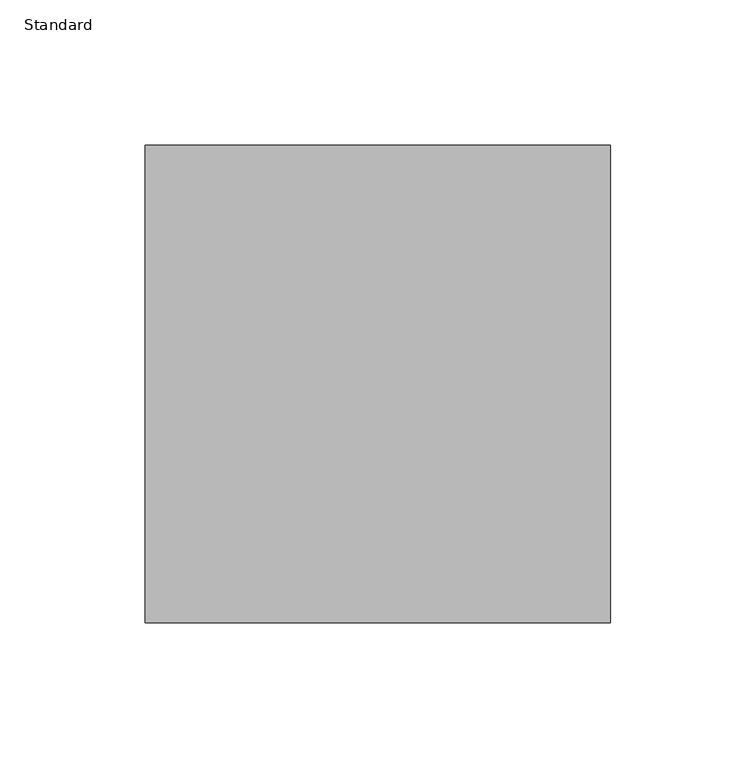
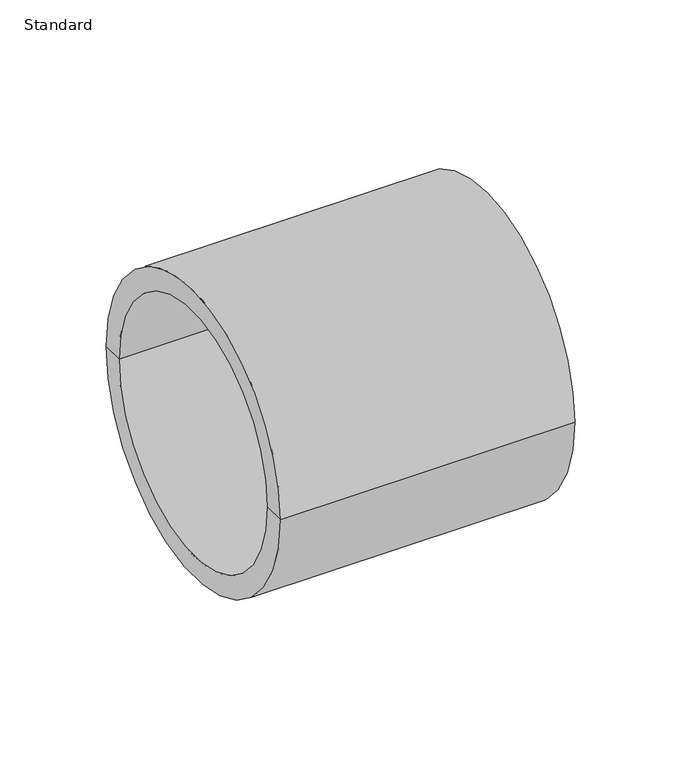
"""IFC4 building model written with IfcOpenShell, lengths in millimetres: pipe fitting geometry, Durapipe_PipeFitting_PVC_Socket : Standard."""

from ifc_helpers import new_model, si_unit, frame, origin, place, context, project, spatial, polyline, circle_curve, source, transform, mapped, element, save
from ifc_brep_helpers import plane_surface, cylinder_surface, revolved_surface, advanced_brep


def standard_bcb89aef(model_context):
    return source(origin(), model_context, "Body", "AdvancedBrep", [
        advanced_brep(
        [(-80.0, -82.0, 0.0), (-80.0, 82.0, 0.0), (80.0, 82.0, 0.0), (80.0, -82.0, 0.0), (-80.0, -70.0, 0.0), (-80.0, 70.0, 0.0), (4.0, -62.0, 0.0), (4.0, 62.0, 0.0), (-4.0, 62.0, 0.0), (-4.0, -62.0, 0.0), (80.0, 70.0, 0.0), (80.0, -70.0, 0.0), (-4.0, -70.0, 0.0), (-4.0, 70.0, 0.0), (4.0, -70.0, 0.0), (4.0, 70.0, 0.0)],
        [
            (0, 1, circle_curve(frame((-80.0, 0.0, 0.0), z_axis=(1.0, 0.0, 0.0), x_axis=(0.0, 1.0, 0.0)), 82.0)),
            (1, 2),
            (2, 3, circle_curve(frame((80.0, 0.0, 0.0), z_axis=(-1.0, 0.0, 0.0), x_axis=(0.0, 1.0, 0.0)), 82.0)),
            (3, 0),
            (1, 0, circle_curve(frame((-80.0, 0.0, 0.0), z_axis=(1.0, 0.0, 0.0), x_axis=(0.0, 1.0, 0.0)), 82.0)),
            (3, 2, circle_curve(frame((80.0, 0.0, 0.0), z_axis=(-1.0, 0.0, 0.0), x_axis=(0.0, 1.0, 0.0)), 82.0)),
            (4, 5, circle_curve(frame((-80.0, 0.0, 0.0), z_axis=(1.0, 0.0, 0.0), x_axis=(0.0, 1.0, 0.0)), 70.0)),
            (5, 1),
            (0, 4),
            (5, 4, circle_curve(frame((-80.0, 0.0, 0.0), z_axis=(1.0, 0.0, 0.0), x_axis=(0.0, 1.0, 0.0)), 70.0)),
            (6, 7, circle_curve(frame((4.0, 0.0, 0.0), z_axis=(1.0, 0.0, 0.0), x_axis=(0.0, 1.0, 0.0)), 62.0)),
            (7, 8),
            (8, 9, circle_curve(frame((-4.0, 0.0, 0.0), z_axis=(-1.0, 0.0, 0.0), x_axis=(0.0, 1.0, 0.0)), 62.0)),
            (9, 6),
            (7, 6, circle_curve(frame((4.0, 0.0, 0.0), z_axis=(1.0, 0.0, 0.0), x_axis=(0.0, 1.0, 0.0)), 62.0)),
            (9, 8, circle_curve(frame((-4.0, 0.0, 0.0), z_axis=(-1.0, 0.0, 0.0), x_axis=(0.0, 1.0, 0.0)), 62.0)),
            (2, 10),
            (10, 11, circle_curve(frame((80.0, 0.0, 0.0), z_axis=(-1.0, 0.0, 0.0), x_axis=(0.0, 1.0, 0.0)), 70.0)),
            (11, 3),
            (11, 10, circle_curve(frame((80.0, 0.0, 0.0), z_axis=(-1.0, 0.0, 0.0), x_axis=(0.0, 1.0, 0.0)), 70.0)),
            (12, 13, circle_curve(frame((-4.0, 0.0, 0.0), z_axis=(1.0, 0.0, 0.0), x_axis=(0.0, 1.0, 0.0)), 70.0)),
            (13, 5),
            (4, 12),
            (13, 12, circle_curve(frame((-4.0, 0.0, 0.0), z_axis=(1.0, 0.0, 0.0), x_axis=(0.0, 1.0, 0.0)), 70.0)),
            (8, 13),
            (12, 9),
            (14, 15, circle_curve(frame((4.0, 0.0, 0.0), z_axis=(1.0, 0.0, 0.0), x_axis=(0.0, 1.0, 0.0)), 70.0)),
            (15, 7),
            (6, 14),
            (15, 14, circle_curve(frame((4.0, 0.0, 0.0), z_axis=(1.0, 0.0, 0.0), x_axis=(0.0, 1.0, 0.0)), 70.0)),
            (10, 15),
            (14, 11),
        ],
        [
            cylinder_surface(frame((-80.0, 0.0, 0.0), z_axis=(-1.0, 0.0, 0.0), x_axis=(0.0, 1.0, 0.0)), 82.0),
            plane_surface(frame((-80.0, 0.0, 0.0), z_axis=(-1.0, 0.0, 0.0), x_axis=(0.0, 1.0, 0.0))),
            revolved_surface(polyline([(-4.0, 62.0, 0.0), (4.0, 62.0, 0.0)]), (-80.0, 0.0, 0.0), (-1.0, 0.0, 0.0)),
            plane_surface(frame((80.0, 0.0, 0.0), z_axis=(1.0, 0.0, 0.0), x_axis=(0.0, 1.0, 0.0))),
            revolved_surface(polyline([(-80.0, 70.0, 0.0), (-4.0, 70.0, 0.0)]), (-80.0, 0.0, 0.0), (-1.0, 0.0, 0.0)),
            plane_surface(frame((-4.0, 0.0, 0.0), z_axis=(-1.0, 0.0, 0.0), x_axis=(0.0, 1.0, 0.0))),
            plane_surface(frame((4.0, 0.0, 0.0), z_axis=(1.0, 0.0, 0.0), x_axis=(0.0, 1.0, 0.0))),
            revolved_surface(polyline([(4.0, 70.0, 0.0), (80.0, 70.0, 0.0)]), (-80.0, 0.0, 0.0), (-1.0, 0.0, 0.0)),
        ],
        [
            (0, [[1, 2, 3, 4]]),
            (0, [[5, -4, 6, -2]]),
            (1, [[7, 8, -1, 9]]),
            (1, [[10, -9, -5, -8]]),
            (2, [[11, 12, 13, 14]]),
            (2, [[15, -14, 16, -12]]),
            (3, [[-3, 17, 18, 19]]),
            (3, [[-6, -19, 20, -17]]),
            (4, [[21, 22, -7, 23]]),
            (4, [[24, -23, -10, -22]]),
            (5, [[-13, 25, -21, 26]]),
            (5, [[-16, -26, -24, -25]]),
            (6, [[27, 28, -11, 29]]),
            (6, [[30, -29, -15, -28]]),
            (7, [[-18, 31, -27, 32]]),
            (7, [[-20, -32, -30, -31]]),
        ],
    ),
    ])


if __name__ == "__main__":
    model = new_model("IFC4")
    model_context = context("Model", 3, world=origin())
    ifc_project = project(units=[si_unit("LENGTHUNIT", "METRE", prefix="MILLI")], contexts=[model_context])
    site = spatial("IfcSite", under=ifc_project)
    building = spatial("IfcBuilding", under=site)
    placement = place(None, origin())
    standard_shape = standard_bcb89aef(model_context)
    element("IfcPipeFitting", 1, ObjectType="Durapipe_PipeFitting_PVC_Socket : Standard", at=placement, inside=building, context=model_context, shape_type="MappedRepresentation", body=[
        mapped(standard_shape, transform((0.0, 0.0, 0.0), x_axis=(1.0, 0.0, 0.0), y_axis=(0.0, 1.0, 0.0), z_axis=(0.0, 0.0, 1.0))),
    ])
    save(model, "model.ifc")
